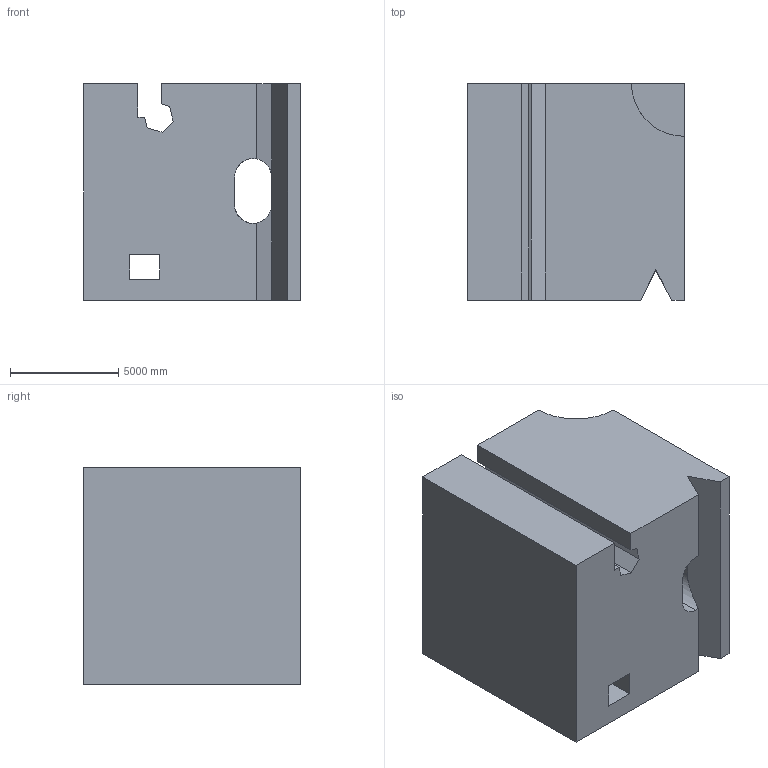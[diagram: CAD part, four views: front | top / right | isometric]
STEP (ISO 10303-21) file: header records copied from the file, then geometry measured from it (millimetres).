
FILE_DESCRIPTION (( 'STEP AP203' ), '1' );
FILE_NAME ('65.STEP', '2022-09-02T13:57:35', ( 'user' ), ( '' ), 'SwSTEP 2.0', 'SolidWorks 2021', '' );
FILE_SCHEMA (( 'CONFIG_CONTROL_DESIGN' ));
Length unit declared in the file: centimetre
Products named in the file (1): 65
Bounding box: 10000 x 10000 x 10000 mm (x, y, z)
Volume: 853490373230.5 mm3; surface area: 748386978.5 mm2
Topology: 1 solids, 1 shells, 33 faces, 97 edges, 64 vertices
Faces by surface type: plane 29, cylinder 4
Entity records: 1356 total; most frequent: CARTESIAN_POINT 396, ORIENTED_EDGE 194, DIRECTION 167, EDGE_CURVE 97, LINE 85, VECTOR 85, VERTEX_POINT 64, AXIS2_PLACEMENT_3D 41
